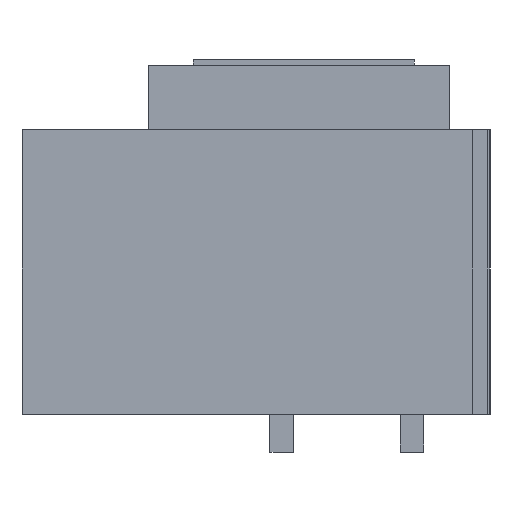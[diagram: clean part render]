
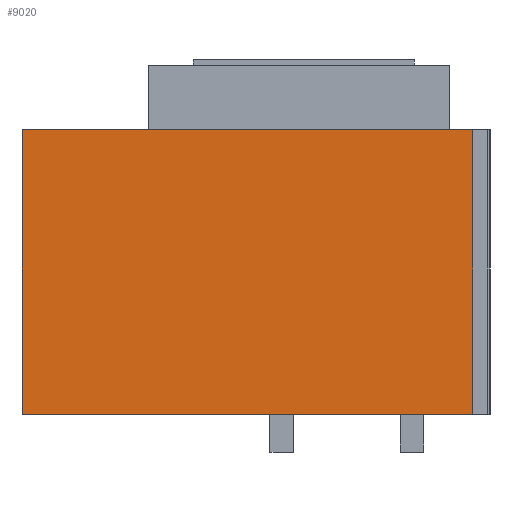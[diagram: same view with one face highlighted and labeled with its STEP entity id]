
A CAD part, left-side view. The second image highlights one B-rep face of the part: STEP entity #9020.
In plain terms, the highlighted planar face has unit normal (-1, 0, 0).
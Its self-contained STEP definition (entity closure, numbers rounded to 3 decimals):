
#253 = EDGE_LOOP ( 'NONE', ( #17794, #19636, #24721, #14077 ) ) ;
#2297 = DIRECTION ( 'NONE',  ( -1., 0., 0. ) ) ;
#4354 = VERTEX_POINT ( 'NONE', #6726 ) ;
#4940 = CARTESIAN_POINT ( 'NONE',  ( -254., 0., 0. ) ) ;
#5002 = DIRECTION ( 'NONE',  ( 0., -1., 0. ) ) ;
#5320 = VERTEX_POINT ( 'NONE', #23161 ) ;
#5555 = LINE ( 'NONE', #27644, #25251 ) ;
#6510 = AXIS2_PLACEMENT_3D ( 'NONE', #16589, #2297, #5002 ) ;
#6726 = CARTESIAN_POINT ( 'NONE',  ( -254., 15., 0. ) ) ;
#9020 = ADVANCED_FACE ( 'NONE', ( #17291 ), #28476, .T. ) ;
#9206 = CARTESIAN_POINT ( 'NONE',  ( -254., 402., -244.5 ) ) ;
#10531 = CARTESIAN_POINT ( 'NONE',  ( -254., 15., -244.5 ) ) ;
#12496 = DIRECTION ( 'NONE',  ( 0., -1., 0. ) ) ;
#12815 = EDGE_CURVE ( 'NONE', #26456, #5320, #24861, .T. ) ;
#12824 = DIRECTION ( 'NONE',  ( 0., -1., 0. ) ) ;
#13128 = DIRECTION ( 'NONE',  ( 0., 0., 1. ) ) ;
#14077 = ORIENTED_EDGE ( 'NONE', *, *, #27428, .T. ) ;
#14190 = EDGE_CURVE ( 'NONE', #5320, #4354, #21514, .T. ) ;
#14387 = DIRECTION ( 'NONE',  ( 0., 0., 1. ) ) ;
#16589 = CARTESIAN_POINT ( 'NONE',  ( -254., 0., -244.5 ) ) ;
#17291 = FACE_OUTER_BOUND ( 'NONE', #253, .T. ) ;
#17794 = ORIENTED_EDGE ( 'NONE', *, *, #14190, .F. ) ;
#17854 = CARTESIAN_POINT ( 'NONE',  ( -254., 15., -244.5 ) ) ;
#17926 = VECTOR ( 'NONE', #14387, 1000. ) ;
#19636 = ORIENTED_EDGE ( 'NONE', *, *, #12815, .F. ) ;
#21231 = EDGE_CURVE ( 'NONE', #26456, #25914, #5555, .T. ) ;
#21514 = LINE ( 'NONE', #4940, #22286 ) ;
#22286 = VECTOR ( 'NONE', #12496, 1000. ) ;
#23161 = CARTESIAN_POINT ( 'NONE',  ( -254., 402., 0. ) ) ;
#24721 = ORIENTED_EDGE ( 'NONE', *, *, #21231, .T. ) ;
#24861 = LINE ( 'NONE', #9206, #17926 ) ;
#25251 = VECTOR ( 'NONE', #12824, 1000. ) ;
#25521 = CARTESIAN_POINT ( 'NONE',  ( -254., 402., -244.5 ) ) ;
#25914 = VERTEX_POINT ( 'NONE', #17854 ) ;
#26456 = VERTEX_POINT ( 'NONE', #25521 ) ;
#27295 = VECTOR ( 'NONE', #13128, 1000. ) ;
#27428 = EDGE_CURVE ( 'NONE', #25914, #4354, #29255, .T. ) ;
#27644 = CARTESIAN_POINT ( 'NONE',  ( -254., 0., -244.5 ) ) ;
#28476 = PLANE ( 'NONE',  #6510 ) ;
#29255 = LINE ( 'NONE', #10531, #27295 ) ;
